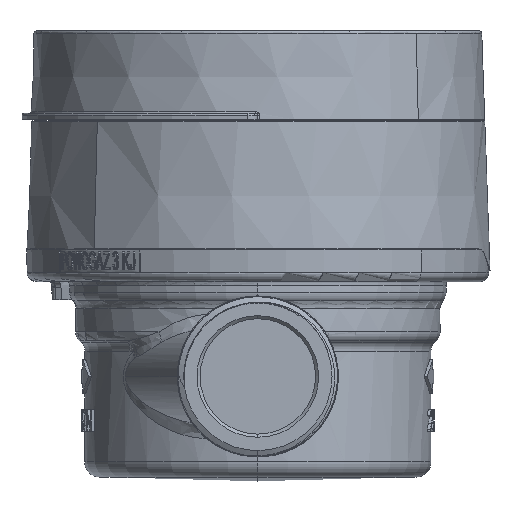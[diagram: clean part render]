
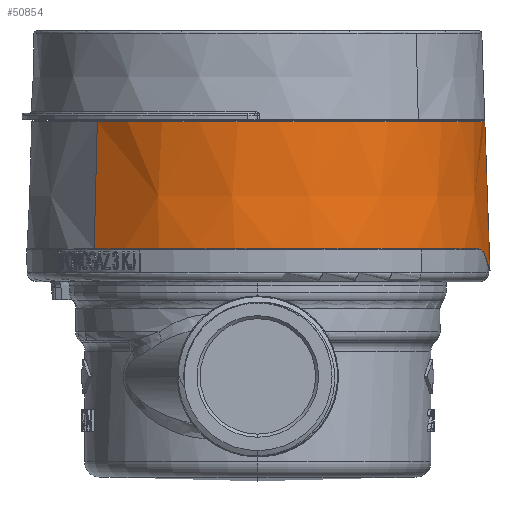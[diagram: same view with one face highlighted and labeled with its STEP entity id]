
A CAD part, left-side view. The second image highlights one B-rep face of the part: STEP entity #50854.
In plain terms, the highlighted conical face has half-angle 2 degrees and reference radius 37.9 mm.
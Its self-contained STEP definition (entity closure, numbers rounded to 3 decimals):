
#203 = DIRECTION ( 'NONE',  ( 1., 0., 0. ) ) ;
#1019 = DIRECTION ( 'NONE',  ( 0., -1., 0. ) ) ;
#3927 = VECTOR ( 'NONE', #93682, 1000. ) ;
#5603 = VERTEX_POINT ( 'NONE', #41097 ) ;
#6310 = CARTESIAN_POINT ( 'NONE',  ( 20.892, 2.696, 31.881 ) ) ;
#7216 = EDGE_CURVE ( 'NONE', #121701, #65056, #145368, .T. ) ;
#9652 = ORIENTED_EDGE ( 'NONE', *, *, #112283, .F. ) ;
#9862 = CARTESIAN_POINT ( 'NONE',  ( -37.357, 24.457, 0. ) ) ;
#10065 = DIRECTION ( 'NONE',  ( -1., 0., 0. ) ) ;
#10351 = CARTESIAN_POINT ( 'NONE',  ( 19.197, 3.362, 32.904 ) ) ;
#12096 = CARTESIAN_POINT ( 'NONE',  ( -38.089, 3.5, 0. ) ) ;
#12246 = CARTESIAN_POINT ( 'NONE',  ( 22.026, 2.042, 31.166 ) ) ;
#12942 = DIRECTION ( 'NONE',  ( 0., -1., 0. ) ) ;
#13943 = AXIS2_PLACEMENT_3D ( 'NONE', #104195, #12942, #203 ) ;
#13961 = CARTESIAN_POINT ( 'NONE',  ( 27.019, 0.002, 27.019 ) ) ;
#15612 = ORIENTED_EDGE ( 'NONE', *, *, #44695, .T. ) ;
#16424 =( BOUNDED_CURVE ( )  B_SPLINE_CURVE ( 3, ( #6310, #12246, #124640, #126128 ),
 .UNSPECIFIED., .F., .F. ) 
 B_SPLINE_CURVE_WITH_KNOTS ( ( 4, 4 ),
 ( 5.276, 5.382 ),
 .UNSPECIFIED. ) 
 CURVE ( )  GEOMETRIC_REPRESENTATION_ITEM ( )  RATIONAL_B_SPLINE_CURVE ( ( 1., 0.999, 0.999, 1. ) ) 
 REPRESENTATION_ITEM ( '' )  );
#17988 = DIRECTION ( 'NONE',  ( 0., 1., 0. ) ) ;
#22135 = CARTESIAN_POINT ( 'NONE',  ( 0., 8.9, 0. ) ) ;
#22421 = EDGE_CURVE ( 'NONE', #32831, #82600, #105446, .T. ) ;
#23164 = CARTESIAN_POINT ( 'NONE',  ( 19.958, 3.158, 32.46 ) ) ;
#25300 = CARTESIAN_POINT ( 'NONE',  ( 26.066, 0.083, 27.942 ) ) ;
#32831 = VERTEX_POINT ( 'NONE', #100051 ) ;
#33368 = ORIENTED_EDGE ( 'NONE', *, *, #48816, .T. ) ;
#35208 = CARTESIAN_POINT ( 'NONE',  ( 18.938, 3.414, 33.052 ) ) ;
#37764 = AXIS2_PLACEMENT_3D ( 'NONE', #22135, #1019, #10065 ) ;
#41097 = CARTESIAN_POINT ( 'NONE',  ( 20.892, 2.696, 31.881 ) ) ;
#41920 = CARTESIAN_POINT ( 'NONE',  ( 24.988, 0.409, 28.889 ) ) ;
#44695 = EDGE_CURVE ( 'NONE', #144580, #121821, #74030, .T. ) ;
#44899 = CARTESIAN_POINT ( 'NONE',  ( 26.54, 0.014, 27.498 ) ) ;
#44977 = CARTESIAN_POINT ( 'NONE',  ( 20.892, 2.696, 31.881 ) ) ;
#45723 = CARTESIAN_POINT ( 'NONE',  ( 17.892, 3.5, 33.624 ) ) ;
#48816 = EDGE_CURVE ( 'NONE', #121821, #5603, #123180, .T. ) ;
#49348 = EDGE_LOOP ( 'NONE', ( #142698, #63618, #129373, #15612, #33368, #62860, #88123, #9652 ) ) ;
#50854 = ADVANCED_FACE ( 'NONE', ( #70301 ), #102808, .T. ) ;
#53252 = CARTESIAN_POINT ( 'NONE',  ( 24.629, 0.558, 29.19 ) ) ;
#57323 = AXIS2_PLACEMENT_3D ( 'NONE', #91823, #114431, #135561 ) ;
#58487 = CARTESIAN_POINT ( 'NONE',  ( 25.385, 0.271, 28.548 ) ) ;
#62860 = ORIENTED_EDGE ( 'NONE', *, *, #138051, .T. ) ;
#63618 = ORIENTED_EDGE ( 'NONE', *, *, #83164, .T. ) ;
#64587 = CARTESIAN_POINT ( 'NONE',  ( 24.17, 0.804, 29.559 ) ) ;
#65056 = VERTEX_POINT ( 'NONE', #124072 ) ;
#69959 = CARTESIAN_POINT ( 'NONE',  ( 26.799, 8.9, 26.799 ) ) ;
#70301 = FACE_OUTER_BOUND ( 'NONE', #49348, .T. ) ;
#74030 = CIRCLE ( 'NONE', #136723, 38.089 ) ;
#82600 = VERTEX_POINT ( 'NONE', #110325 ) ;
#82743 = DIRECTION ( 'NONE',  ( 0.025, -0.999, 0.025 ) ) ;
#83164 = EDGE_CURVE ( 'NONE', #82600, #89976, #93482, .T. ) ;
#83808 = LINE ( 'NONE', #108689, #3927 ) ;
#85070 = DIRECTION ( 'NONE',  ( -1., 0., 0. ) ) ;
#88123 = ORIENTED_EDGE ( 'NONE', *, *, #7216, .T. ) ;
#88221 = CARTESIAN_POINT ( 'NONE',  ( 17.892, 3.5, 33.624 ) ) ;
#89976 = VERTEX_POINT ( 'NONE', #9862 ) ;
#91704 = CARTESIAN_POINT ( 'NONE',  ( 25.169, 0.341, 28.735 ) ) ;
#91823 = CARTESIAN_POINT ( 'NONE',  ( 0., 24.457, 0. ) ) ;
#93482 = CIRCLE ( 'NONE', #57323, 37.357 ) ;
#93682 = DIRECTION ( 'NONE',  ( -0.035, -0.999, 0. ) ) ;
#99378 = CARTESIAN_POINT ( 'NONE',  ( 0., 3.5, 0. ) ) ;
#100051 = CARTESIAN_POINT ( 'NONE',  ( 26.415, 24.457, 26.415 ) ) ;
#102808 = CONICAL_SURFACE ( 'NONE', #37764, 37.9, 0.035 ) ;
#103735 = CARTESIAN_POINT ( 'NONE',  ( 25.588, 0.212, 28.368 ) ) ;
#104195 = CARTESIAN_POINT ( 'NONE',  ( 0., 24.457, 0. ) ) ;
#104381 = VECTOR ( 'NONE', #82743, 1000. ) ;
#105215 = CARTESIAN_POINT ( 'NONE',  ( 25.54, 0.226, 28.411 ) ) ;
#105446 = CIRCLE ( 'NONE', #13943, 37.357 ) ;
#107625 = LINE ( 'NONE', #69959, #104381 ) ;
#108689 = CARTESIAN_POINT ( 'NONE',  ( -37.9, 8.9, 0. ) ) ;
#110325 = CARTESIAN_POINT ( 'NONE',  ( 0., 24.457, 37.357 ) ) ;
#110591 = CARTESIAN_POINT ( 'NONE',  ( 24.396, 0.673, 29.38 ) ) ;
#112283 = EDGE_CURVE ( 'NONE', #32831, #65056, #107625, .T. ) ;
#114431 = DIRECTION ( 'NONE',  ( 0., -1., 0. ) ) ;
#121701 = VERTEX_POINT ( 'NONE', #129779 ) ;
#121821 = VERTEX_POINT ( 'NONE', #88221 ) ;
#123180 = B_SPLINE_CURVE_WITH_KNOTS ( 'NONE', 3,
 ( #45723, #136287, #126461, #35208, #10351, #23164, #148361, #44977 ),
 .UNSPECIFIED., .F., .F.,
 ( 4, 2, 2, 4 ),
 ( 0., 0.25, 0.5, 1. ),
 .UNSPECIFIED. ) ;
#124072 = CARTESIAN_POINT ( 'NONE',  ( 27.019, 0.002, 27.019 ) ) ;
#124640 = CARTESIAN_POINT ( 'NONE',  ( 23.119, 1.41, 30.391 ) ) ;
#126128 = CARTESIAN_POINT ( 'NONE',  ( 24.17, 0.804, 29.559 ) ) ;
#126461 = CARTESIAN_POINT ( 'NONE',  ( 18.419, 3.483, 33.341 ) ) ;
#128592 = CARTESIAN_POINT ( 'NONE',  ( 25.493, 0.239, 28.452 ) ) ;
#129373 = ORIENTED_EDGE ( 'NONE', *, *, #139304, .T. ) ;
#129779 = CARTESIAN_POINT ( 'NONE',  ( 24.17, 0.804, 29.559 ) ) ;
#135561 = DIRECTION ( 'NONE',  ( 1., 0., 0. ) ) ;
#136287 = CARTESIAN_POINT ( 'NONE',  ( 18.157, 3.5, 33.484 ) ) ;
#136723 = AXIS2_PLACEMENT_3D ( 'NONE', #99378, #17988, #85070 ) ;
#138051 = EDGE_CURVE ( 'NONE', #5603, #121701, #16424, .T. ) ;
#139304 = EDGE_CURVE ( 'NONE', #89976, #144580, #83808, .T. ) ;
#142698 = ORIENTED_EDGE ( 'NONE', *, *, #22421, .T. ) ;
#144580 = VERTEX_POINT ( 'NONE', #12096 ) ;
#145368 = B_SPLINE_CURVE_WITH_KNOTS ( 'NONE', 3,
 ( #64587, #110591, #53252, #41920, #91704, #58487, #128592, #105215, #149022, #103735, #25300, #44899, #13961 ),
 .UNSPECIFIED., .F., .F.,
 ( 4, 2, 1, 1, 1, 2, 2, 4 ),
 ( 0., 0.25, 0.375, 0.438, 0.469, 0.484, 0.5, 1. ),
 .UNSPECIFIED. ) ;
#148361 = CARTESIAN_POINT ( 'NONE',  ( 20.438, 2.958, 32.167 ) ) ;
#149022 = CARTESIAN_POINT ( 'NONE',  ( 25.571, 0.217, 28.383 ) ) ;
